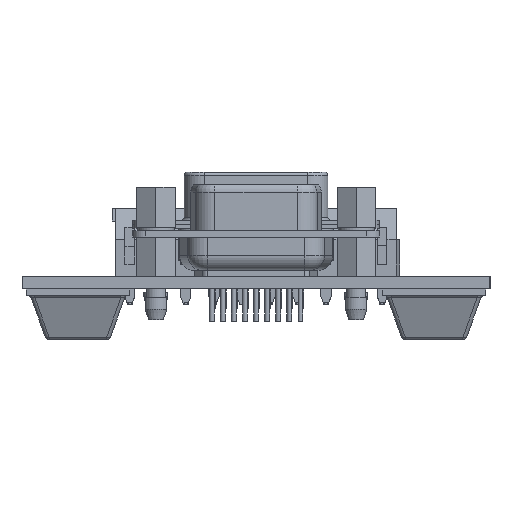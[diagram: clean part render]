
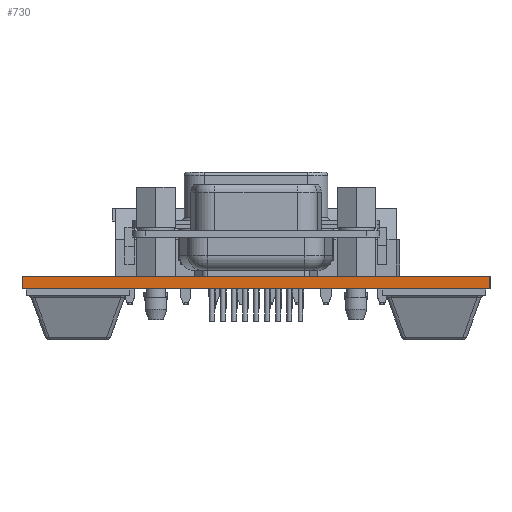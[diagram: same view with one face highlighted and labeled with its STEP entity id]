
A CAD part, left-side view. The second image highlights one B-rep face of the part: STEP entity #730.
In plain terms, the highlighted planar face has unit normal (-1, 0, 0).
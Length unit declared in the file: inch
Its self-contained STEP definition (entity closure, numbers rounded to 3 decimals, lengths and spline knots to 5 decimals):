
#730 = ADVANCED_FACE ( 'NONE', ( #14133 ), #1585, .T. ) ;
#1585 = PLANE ( 'NONE',  #89298 ) ;
#2505 = LINE ( 'NONE', #73297, #29467 ) ;
#7476 = ORIENTED_EDGE ( 'NONE', *, *, #40904, .F. ) ;
#11505 = ORIENTED_EDGE ( 'NONE', *, *, #86615, .F. ) ;
#14133 = FACE_OUTER_BOUND ( 'NONE', #41521, .T. ) ;
#15787 = VERTEX_POINT ( 'NONE', #42717 ) ;
#16986 = CARTESIAN_POINT ( 'NONE',  ( 21.93, 5.348, 0. ) ) ;
#20411 = LINE ( 'NONE', #92391, #39582 ) ;
#22006 = CARTESIAN_POINT ( 'NONE',  ( 21.93, 0., 0.0625 ) ) ;
#29467 = VECTOR ( 'NONE', #33961, 39.37008 ) ;
#30268 = DIRECTION ( 'NONE',  ( 0., 1., 0. ) ) ;
#33961 = DIRECTION ( 'NONE',  ( 0., 0., -1. ) ) ;
#39582 = VECTOR ( 'NONE', #75623, 39.37008 ) ;
#40904 = EDGE_CURVE ( 'NONE', #15787, #51198, #20411, .T. ) ;
#41521 = EDGE_LOOP ( 'NONE', ( #11505, #7476, #65933, #95270 ) ) ;
#42717 = CARTESIAN_POINT ( 'NONE',  ( 21.93, 5.348, 0.0625 ) ) ;
#43054 = DIRECTION ( 'NONE',  ( -1., 0., 0. ) ) ;
#43406 = DIRECTION ( 'NONE',  ( 0., 0., 1. ) ) ;
#43600 = LINE ( 'NONE', #98385, #65382 ) ;
#45189 = EDGE_CURVE ( 'NONE', #84229, #87491, #2505, .T. ) ;
#51198 = VERTEX_POINT ( 'NONE', #16986 ) ;
#53676 = CARTESIAN_POINT ( 'NONE',  ( 21.93, 7.648, 0.0625 ) ) ;
#58793 = CARTESIAN_POINT ( 'NONE',  ( 21.93, 0., 0.0625 ) ) ;
#58894 = VECTOR ( 'NONE', #30268, 39.37008 ) ;
#62889 = CARTESIAN_POINT ( 'NONE',  ( 21.93, 7.648, 0. ) ) ;
#65382 = VECTOR ( 'NONE', #89473, 39.37008 ) ;
#65933 = ORIENTED_EDGE ( 'NONE', *, *, #74896, .T. ) ;
#73297 = CARTESIAN_POINT ( 'NONE',  ( 21.93, 7.648, 0.0625 ) ) ;
#74896 = EDGE_CURVE ( 'NONE', #15787, #84229, #76760, .T. ) ;
#75623 = DIRECTION ( 'NONE',  ( 0., 0., -1. ) ) ;
#76760 = LINE ( 'NONE', #22006, #58894 ) ;
#84229 = VERTEX_POINT ( 'NONE', #53676 ) ;
#86615 = EDGE_CURVE ( 'NONE', #51198, #87491, #43600, .T. ) ;
#87491 = VERTEX_POINT ( 'NONE', #62889 ) ;
#89298 = AXIS2_PLACEMENT_3D ( 'NONE', #58793, #43054, #43406 ) ;
#89473 = DIRECTION ( 'NONE',  ( 0., 1., 0. ) ) ;
#92391 = CARTESIAN_POINT ( 'NONE',  ( 21.93, 5.348, 0.0625 ) ) ;
#95270 = ORIENTED_EDGE ( 'NONE', *, *, #45189, .T. ) ;
#98385 = CARTESIAN_POINT ( 'NONE',  ( 21.93, 0., 0. ) ) ;
